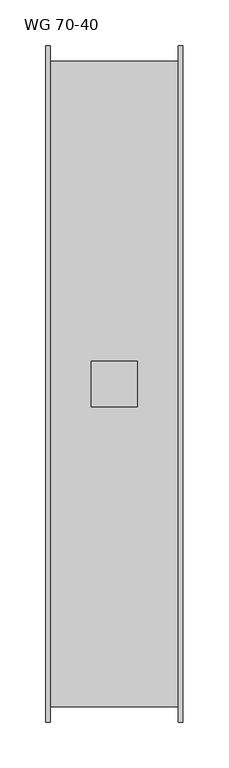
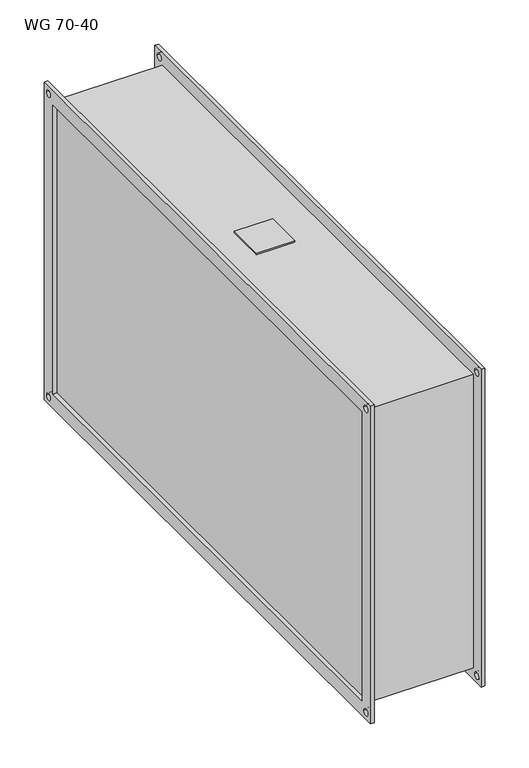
"""IFC4 building model written with IfcOpenShell, lengths in millimetres: damper geometry, KORF_Вставка_Гибкая_WG : WG 70-40."""

from ifc_helpers import new_model, si_unit, point, frame, frame_2d, origin, place, context, project, spatial, polyline, circle_curve, trimmed, segment, composite_curve, outline, extrude, source, transform, mapped, element, save


def wg_70_40_4a08e537(model_context):
    return source(origin(), model_context, "Body", "SweptSolid", [
        extrude(outline(polyline([(50.0, -25.0), (50.0, 25.0), (100.0, 25.0), (100.0, -25.0), (50.0, -25.0)])), frame((0.0, 0.0, 203.0), z_axis=(0.0, 0.0, 1.0), x_axis=(1.0, 0.0, 0.0)), (0.0, 0.0, 1.0), 2.0),
        extrude(outline(polyline([(-370.0, 220.0), (370.0, 220.0), (370.0, -220.0), (-370.0, -220.0), (-370.0, 220.0)]), holes=[polyline([(-350.0, 200.0), (-350.0, -200.0), (350.0, -200.0), (350.0, 200.0), (-350.0, 200.0)]), composite_curve([segment(trimmed(circle_curve(frame_2d((360.0, 210.0)), 4.5), [point((355.5, 210.0))], [point((364.5, 210.0))], True, "CARTESIAN"), True, "CONTINUOUS"), segment(trimmed(circle_curve(frame_2d((360.0, 210.0)), 4.5), [point((364.5, 210.0))], [point((355.5, 210.0))], True, "CARTESIAN"), True, "CONTINUOUS")], self_intersect=False), composite_curve([segment(trimmed(circle_curve(frame_2d((-360.0, 210.0)), 4.5), [point((-364.5, 210.0))], [point((-355.5, 210.0))], True, "CARTESIAN"), True, "CONTINUOUS"), segment(trimmed(circle_curve(frame_2d((-360.0, 210.0)), 4.5), [point((-355.5, 210.0))], [point((-364.5, 210.0))], True, "CARTESIAN"), True, "CONTINUOUS")], self_intersect=False), composite_curve([segment(trimmed(circle_curve(frame_2d((-360.0, -210.0)), 4.5), [point((-364.5, -210.0))], [point((-355.5, -210.0))], True, "CARTESIAN"), True, "CONTINUOUS"), segment(trimmed(circle_curve(frame_2d((-360.0, -210.0)), 4.5), [point((-355.5, -210.0))], [point((-364.5, -210.0))], True, "CARTESIAN"), True, "CONTINUOUS")], self_intersect=False), composite_curve([segment(trimmed(circle_curve(frame_2d((360.0, -210.0)), 4.5), [point((355.5, -210.0))], [point((364.5, -210.0))], True, "CARTESIAN"), True, "CONTINUOUS"), segment(trimmed(circle_curve(frame_2d((360.0, -210.0)), 4.5), [point((364.5, -210.0))], [point((355.5, -210.0))], True, "CARTESIAN"), True, "CONTINUOUS")], self_intersect=False)]), frame((145.0, 0.0, 0.0), z_axis=(1.0, 0.0, 0.0), x_axis=(0.0, 1.0, 0.0)), (0.0, 0.0, 1.0), 5.0),
        extrude(outline(polyline([(-370.0, 220.0), (370.0, 220.0), (370.0, -220.0), (-370.0, -220.0), (-370.0, 220.0)]), holes=[polyline([(-350.0, 200.0), (-350.0, -200.0), (350.0, -200.0), (350.0, 200.0), (-350.0, 200.0)]), composite_curve([segment(trimmed(circle_curve(frame_2d((360.0, 210.0)), 4.5), [point((355.5, 210.0))], [point((364.5, 210.0))], True, "CARTESIAN"), True, "CONTINUOUS"), segment(trimmed(circle_curve(frame_2d((360.0, 210.0)), 4.5), [point((364.5, 210.0))], [point((355.5, 210.0))], True, "CARTESIAN"), True, "CONTINUOUS")], self_intersect=False), composite_curve([segment(trimmed(circle_curve(frame_2d((-360.0, 210.0)), 4.5), [point((-364.5, 210.0))], [point((-355.5, 210.0))], True, "CARTESIAN"), True, "CONTINUOUS"), segment(trimmed(circle_curve(frame_2d((-360.0, 210.0)), 4.5), [point((-355.5, 210.0))], [point((-364.5, 210.0))], True, "CARTESIAN"), True, "CONTINUOUS")], self_intersect=False), composite_curve([segment(trimmed(circle_curve(frame_2d((-360.0, -210.0)), 4.5), [point((-364.5, -210.0))], [point((-355.5, -210.0))], True, "CARTESIAN"), True, "CONTINUOUS"), segment(trimmed(circle_curve(frame_2d((-360.0, -210.0)), 4.5), [point((-355.5, -210.0))], [point((-364.5, -210.0))], True, "CARTESIAN"), True, "CONTINUOUS")], self_intersect=False), composite_curve([segment(trimmed(circle_curve(frame_2d((360.0, -210.0)), 4.5), [point((355.5, -210.0))], [point((364.5, -210.0))], True, "CARTESIAN"), True, "CONTINUOUS"), segment(trimmed(circle_curve(frame_2d((360.0, -210.0)), 4.5), [point((364.5, -210.0))], [point((355.5, -210.0))], True, "CARTESIAN"), True, "CONTINUOUS")], self_intersect=False)]), frame((0.0, 0.0, 0.0), z_axis=(1.0, 0.0, 0.0), x_axis=(0.0, 1.0, 0.0)), (0.0, 0.0, 1.0), 5.0),
        extrude(outline(polyline([(145.0, 353.0), (145.0, -353.0), (5.0, -353.0), (5.0, 353.0), (145.0, 353.0)])), frame((0.0, 0.0, -203.0), z_axis=(0.0, 0.0, 1.0), x_axis=(1.0, 0.0, 0.0)), (0.0, 0.0, 1.0), 406.0),
    ])


if __name__ == "__main__":
    model = new_model("IFC4")
    model_context = context("Model", 3, world=origin())
    ifc_project = project(units=[si_unit("LENGTHUNIT", "METRE", prefix="MILLI")], contexts=[model_context])
    site = spatial("IfcSite", under=ifc_project)
    building = spatial("IfcBuilding", under=site)
    placement = place(None, origin())
    wg_70_40_shape = wg_70_40_4a08e537(model_context)
    element("IfcDamper", 1, ObjectType="KORF_Вставка_Гибкая_WG : WG 70-40", at=placement, inside=building, context=model_context, shape_type="MappedRepresentation", body=[
        mapped(wg_70_40_shape, transform((0.0, 0.0, 0.0), x_axis=(1.0, 0.0, 0.0), y_axis=(0.0, 1.0, 0.0), z_axis=(0.0, 0.0, 1.0))),
    ])
    save(model, "model.ifc")
